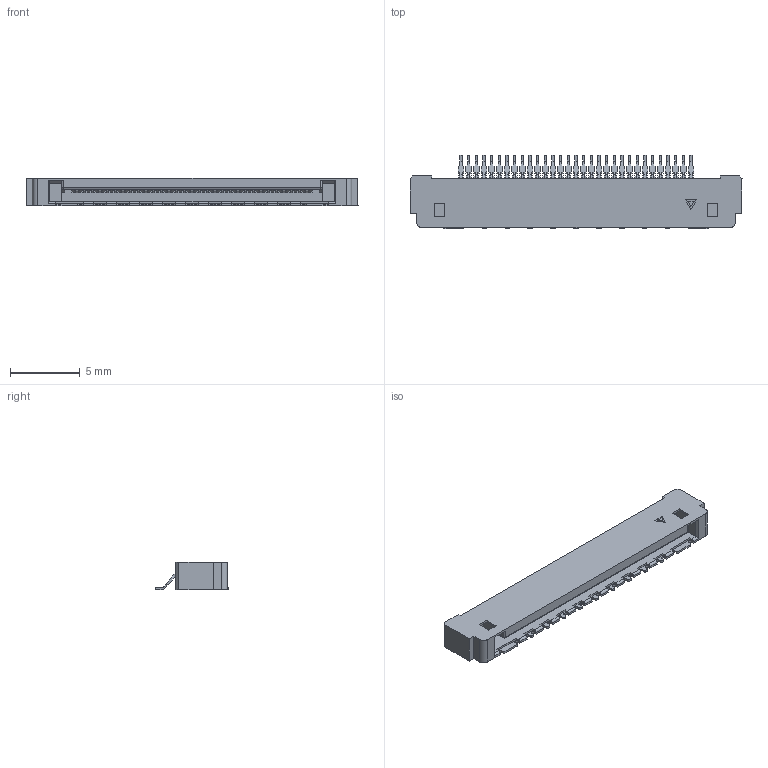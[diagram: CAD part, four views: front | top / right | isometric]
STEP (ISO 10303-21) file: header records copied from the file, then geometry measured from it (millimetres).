
FILE_DESCRIPTION(('Creo Elements/Direct Modeling STEP Export'),'2;1');
FILE_NAME('P3E145_TSL00-31L.stp','2022-02-04T17:19:14',(''),(''),'Creo Elements/Direct Modeling STEP processor for AP214 (Solid Model)','Creo Elements/Direct Modeling 20.2 28-Feb-2019 (C) Parametric Technology GmbH','');
FILE_SCHEMA(('AUTOMOTIVE_DESIGN { 1 0 10303 214 1 1 1 1 }'));
Products named in the file (2): P3E145_TSL00-31L
Assembly tree (1 placements, depth 2):
  P3E145_TSL00-31L
    P3E145_TSL00-31L
Bounding box: 23.82 x 5.3 x 1.97 mm (x, y, z)
Volume: 127.2 mm3; surface area: 426.5 mm2
Topology: 1 solids, 1 shells, 1614 faces, 4607 edges, 3026 vertices
Faces by surface type: plane 1257, cylinder 293, bspline 62, sphere 2
Entity records: 53772 total; most frequent: CARTESIAN_POINT 12347, ORIENTED_EDGE 9210, DIRECTION 7865, EDGE_CURVE 4605, VECTOR 3585, LINE 3585, VERTEX_POINT 3026, AXIS2_PLACEMENT_3D 2140
